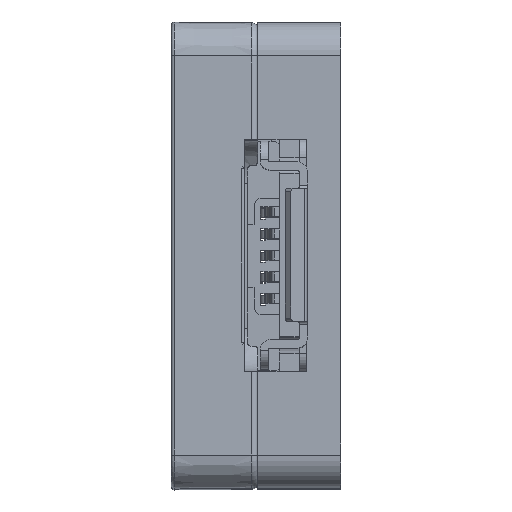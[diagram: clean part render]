
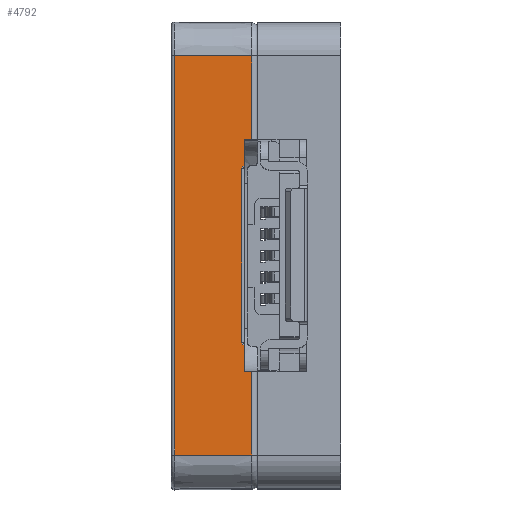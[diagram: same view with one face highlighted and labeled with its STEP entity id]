
A CAD part, top view. The second image highlights one B-rep face of the part: STEP entity #4792.
In plain terms, the highlighted planar face has unit normal (0.009, 0, 1) as drawn and (0, -0.009, -1) by its records, which use the part's own axes.
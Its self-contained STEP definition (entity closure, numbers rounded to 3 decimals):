
#1659 = EDGE_CURVE ( 'NONE', #22348, #12757, #25486, .T. ) ;
#1972 = CARTESIAN_POINT ( 'NONE',  ( -2.726, 0.9, -0.003 ) ) ;
#2647 = CARTESIAN_POINT ( 'NONE',  ( 6., 0.5, 0. ) ) ;
#2755 = LINE ( 'NONE', #47310, #31279 ) ;
#3037 = VECTOR ( 'NONE', #9151, 1000. ) ;
#3981 = CARTESIAN_POINT ( 'NONE',  ( 2.654, 0.955, -0.004 ) ) ;
#4792 = ADVANCED_FACE ( 'NONE', ( #21718 ), #41638, .T. ) ;
#5206 = CARTESIAN_POINT ( 'NONE',  ( 3.475, 0.678, -0.002 ) ) ;
#5320 = LINE ( 'NONE', #24219, #6600 ) ;
#6229 = CARTESIAN_POINT ( 'NONE',  ( 0., 0.9, -0.003 ) ) ;
#6600 = VECTOR ( 'NONE', #36149, 1000. ) ;
#8381 = ORIENTED_EDGE ( 'NONE', *, *, #42022, .T. ) ;
#9125 = CARTESIAN_POINT ( 'NONE',  ( -3.475, 0.678, -0.002 ) ) ;
#9146 = VERTEX_POINT ( 'NONE', #11668 ) ;
#9151 = DIRECTION ( 'NONE',  ( -1., 0., 0. ) ) ;
#9257 = VERTEX_POINT ( 'NONE', #24937 ) ;
#9383 = LINE ( 'NONE', #34375, #22709 ) ;
#9388 = ORIENTED_EDGE ( 'NONE', *, *, #1659, .T. ) ;
#9600 = CARTESIAN_POINT ( 'NONE',  ( 3.475, 0.9, -0.003 ) ) ;
#10854 = CARTESIAN_POINT ( 'NONE',  ( 6., 0.678, -0.002 ) ) ;
#10912 = CARTESIAN_POINT ( 'NONE',  ( -2.726, 0.9, -0.003 ) ) ;
#11172 = ORIENTED_EDGE ( 'NONE', *, *, #27315, .T. ) ;
#11329 = CARTESIAN_POINT ( 'NONE',  ( -2.616, 0.978, -0.004 ) ) ;
#11540 = ORIENTED_EDGE ( 'NONE', *, *, #41008, .T. ) ;
#11668 = CARTESIAN_POINT ( 'NONE',  ( -6., 0.678, -0.002 ) ) ;
#12649 = VERTEX_POINT ( 'NONE', #5206 ) ;
#12757 = VERTEX_POINT ( 'NONE', #50538 ) ;
#13457 = LINE ( 'NONE', #31916, #16002 ) ;
#13888 = LINE ( 'NONE', #28352, #3037 ) ;
#14371 = CARTESIAN_POINT ( 'NONE',  ( 2.726, 0.9, -0.003 ) ) ;
#14568 = ORIENTED_EDGE ( 'NONE', *, *, #46029, .T. ) ;
#14726 = EDGE_CURVE ( 'NONE', #12649, #44066, #25933, .T. ) ;
#15143 = CARTESIAN_POINT ( 'NONE',  ( -2.616, 0.978, -0.004 ) ) ;
#15577 = VERTEX_POINT ( 'NONE', #44117 ) ;
#15788 = CARTESIAN_POINT ( 'NONE',  ( 3.475, 0.5, 0. ) ) ;
#15998 = EDGE_CURVE ( 'NONE', #15577, #20022, #16873, .T. ) ;
#16002 = VECTOR ( 'NONE', #40291, 1000. ) ;
#16873 = LINE ( 'NONE', #2647, #31512 ) ;
#17457 = DIRECTION ( 'NONE',  ( 0., 1., -0.009 ) ) ;
#17479 = EDGE_CURVE ( 'NONE', #9146, #25807, #50455, .T. ) ;
#17784 = VECTOR ( 'NONE', #38060, 1000. ) ;
#19656 = CARTESIAN_POINT ( 'NONE',  ( 2.726, 0.9, -0.003 ) ) ;
#19979 = CARTESIAN_POINT ( 'NONE',  ( 2.616, 0.978, -0.004 ) ) ;
#20022 = VERTEX_POINT ( 'NONE', #10854 ) ;
#20254 = B_SPLINE_CURVE_WITH_KNOTS ( 'NONE', 3,
 ( #15143, #34705, #22395, #10912 ),
 .UNSPECIFIED., .F., .F.,
 ( 4, 4 ),
 ( 0., 0. ),
 .UNSPECIFIED. ) ;
#20784 = VECTOR ( 'NONE', #27704, 1000. ) ;
#21718 = FACE_OUTER_BOUND ( 'NONE', #50721, .T. ) ;
#22290 = AXIS2_PLACEMENT_3D ( 'NONE', #37710, #41814, #17457 ) ;
#22348 = VERTEX_POINT ( 'NONE', #14371 ) ;
#22395 = CARTESIAN_POINT ( 'NONE',  ( -2.693, 0.93, -0.004 ) ) ;
#22541 = EDGE_CURVE ( 'NONE', #9257, #51403, #13457, .T. ) ;
#22709 = VECTOR ( 'NONE', #38969, 1000. ) ;
#22742 = DIRECTION ( 'NONE',  ( 0., -1., 0.009 ) ) ;
#24219 = CARTESIAN_POINT ( 'NONE',  ( 0., 2.999, -0.022 ) ) ;
#24937 = CARTESIAN_POINT ( 'NONE',  ( -3.475, 0.9, -0.003 ) ) ;
#25486 = B_SPLINE_CURVE_WITH_KNOTS ( 'NONE', 3,
 ( #19656, #52188, #3981, #19979 ),
 .UNSPECIFIED., .F., .F.,
 ( 4, 4 ),
 ( 0., 0. ),
 .UNSPECIFIED. ) ;
#25698 = CARTESIAN_POINT ( 'NONE',  ( -6., 2.999, -0.022 ) ) ;
#25807 = VERTEX_POINT ( 'NONE', #25698 ) ;
#25933 = LINE ( 'NONE', #15788, #20784 ) ;
#26054 = EDGE_CURVE ( 'NONE', #12757, #41850, #35384, .T. ) ;
#26125 = VERTEX_POINT ( 'NONE', #9125 ) ;
#26862 = CARTESIAN_POINT ( 'NONE',  ( -6., 0.5, 0. ) ) ;
#27040 = DIRECTION ( 'NONE',  ( 0., 1., -0.009 ) ) ;
#27315 = EDGE_CURVE ( 'NONE', #9257, #26125, #2755, .T. ) ;
#27704 = DIRECTION ( 'NONE',  ( 0., 1., -0.009 ) ) ;
#28352 = CARTESIAN_POINT ( 'NONE',  ( 0., 0.678, -0.002 ) ) ;
#31196 = ORIENTED_EDGE ( 'NONE', *, *, #22541, .F. ) ;
#31279 = VECTOR ( 'NONE', #22742, 1000. ) ;
#31512 = VECTOR ( 'NONE', #35184, 1000. ) ;
#31916 = CARTESIAN_POINT ( 'NONE',  ( 0., 0.9, -0.003 ) ) ;
#34126 = VECTOR ( 'NONE', #40948, 1000. ) ;
#34375 = CARTESIAN_POINT ( 'NONE',  ( 0., 0.678, -0.002 ) ) ;
#34450 = ORIENTED_EDGE ( 'NONE', *, *, #26054, .T. ) ;
#34705 = CARTESIAN_POINT ( 'NONE',  ( -2.654, 0.955, -0.004 ) ) ;
#35184 = DIRECTION ( 'NONE',  ( 0., -1., 0.009 ) ) ;
#35384 = LINE ( 'NONE', #37373, #34126 ) ;
#35986 = ORIENTED_EDGE ( 'NONE', *, *, #48940, .F. ) ;
#36149 = DIRECTION ( 'NONE',  ( 1., 0., 0. ) ) ;
#37373 = CARTESIAN_POINT ( 'NONE',  ( 0., 0.978, -0.004 ) ) ;
#37710 = CARTESIAN_POINT ( 'NONE',  ( 0., 0.5, 0. ) ) ;
#38060 = DIRECTION ( 'NONE',  ( 1., 0., 0. ) ) ;
#38528 = ORIENTED_EDGE ( 'NONE', *, *, #15998, .T. ) ;
#38969 = DIRECTION ( 'NONE',  ( -1., 0., 0. ) ) ;
#40291 = DIRECTION ( 'NONE',  ( 1., 0., 0. ) ) ;
#40948 = DIRECTION ( 'NONE',  ( -1., 0., 0. ) ) ;
#41008 = EDGE_CURVE ( 'NONE', #26125, #9146, #13888, .T. ) ;
#41638 = PLANE ( 'NONE',  #22290 ) ;
#41814 = DIRECTION ( 'NONE',  ( 0., -0.009, -1. ) ) ;
#41850 = VERTEX_POINT ( 'NONE', #11329 ) ;
#42022 = EDGE_CURVE ( 'NONE', #25807, #15577, #5320, .T. ) ;
#43832 = LINE ( 'NONE', #6229, #17784 ) ;
#44066 = VERTEX_POINT ( 'NONE', #9600 ) ;
#44117 = CARTESIAN_POINT ( 'NONE',  ( 6., 2.999, -0.022 ) ) ;
#44651 = ORIENTED_EDGE ( 'NONE', *, *, #17479, .T. ) ;
#46029 = EDGE_CURVE ( 'NONE', #20022, #12649, #9383, .T. ) ;
#47310 = CARTESIAN_POINT ( 'NONE',  ( -3.475, 0.5, 0. ) ) ;
#48940 = EDGE_CURVE ( 'NONE', #22348, #44066, #43832, .T. ) ;
#49905 = ORIENTED_EDGE ( 'NONE', *, *, #51496, .T. ) ;
#50409 = ORIENTED_EDGE ( 'NONE', *, *, #14726, .T. ) ;
#50455 = LINE ( 'NONE', #26862, #51745 ) ;
#50538 = CARTESIAN_POINT ( 'NONE',  ( 2.616, 0.978, -0.004 ) ) ;
#50721 = EDGE_LOOP ( 'NONE', ( #31196, #11172, #11540, #44651, #8381, #38528, #14568, #50409, #35986, #9388, #34450, #49905 ) ) ;
#51403 = VERTEX_POINT ( 'NONE', #1972 ) ;
#51496 = EDGE_CURVE ( 'NONE', #41850, #51403, #20254, .T. ) ;
#51745 = VECTOR ( 'NONE', #27040, 1000. ) ;
#52188 = CARTESIAN_POINT ( 'NONE',  ( 2.693, 0.93, -0.004 ) ) ;
